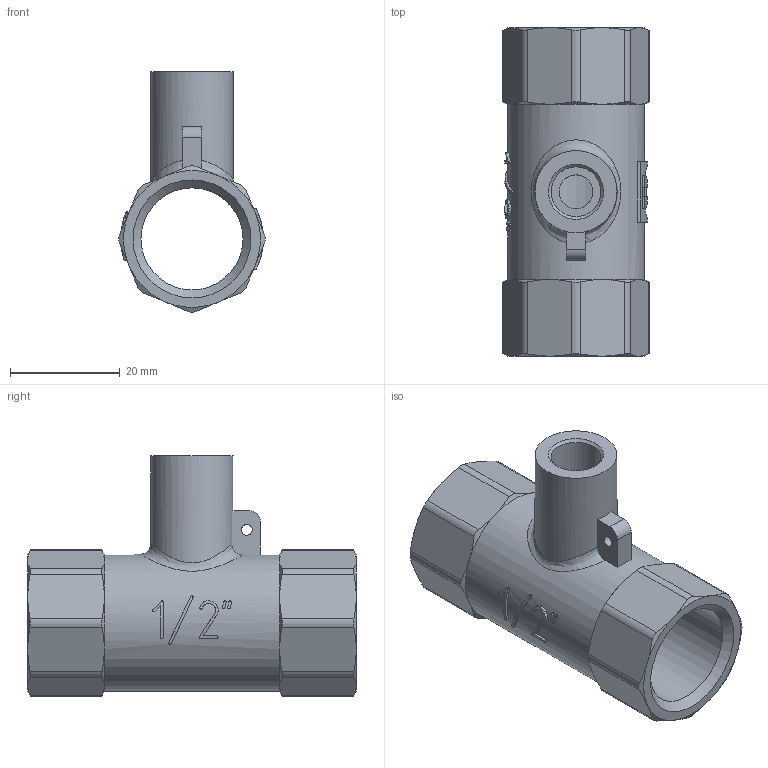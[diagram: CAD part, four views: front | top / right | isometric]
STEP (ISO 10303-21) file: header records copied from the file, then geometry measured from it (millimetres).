
FILE_DESCRIPTION(('STEP AP203'), '1');
FILE_NAME('ÂÐ.752243.016 - VTr.250.N.0004 - Òðîé. äëÿ ïîäêë. äàò÷. òåìï', '2024-06-27T11:50:11', ('Boss'), (''), 'C3D Converter', 'C3D Toolkit', '');
FILE_SCHEMA(('CONFIG_CONTROL_DESIGN'));
Length unit declared in the file: millimetre
Products named in the file (1): ВР.752243.016
Bounding box: 26.73 x 60 x 43.87 mm (x, y, z)
Volume: 16166.2 mm3; surface area: 10229.1 mm2
Topology: 1 solids, 1 shells, 187 faces, 500 edges, 322 vertices
Faces by surface type: plane 61, extrusion 58, cone 35, cylinder 32, bspline 1
Full cylindrical faces by diameter (mm): 2 x1, 6.2 x1, 9.1 x1, 15 x1, 18.632 x1, 25 x1
Entity records: 10108 total; most frequent: CARTESIAN_POINT 5974, ORIENTED_EDGE 976, DIRECTION 606, EDGE_CURVE 488, VERTEX_POINT 322, B_SPLINE_CURVE_WITH_KNOTS 278, EDGE_LOOP 212, VECTOR 212
